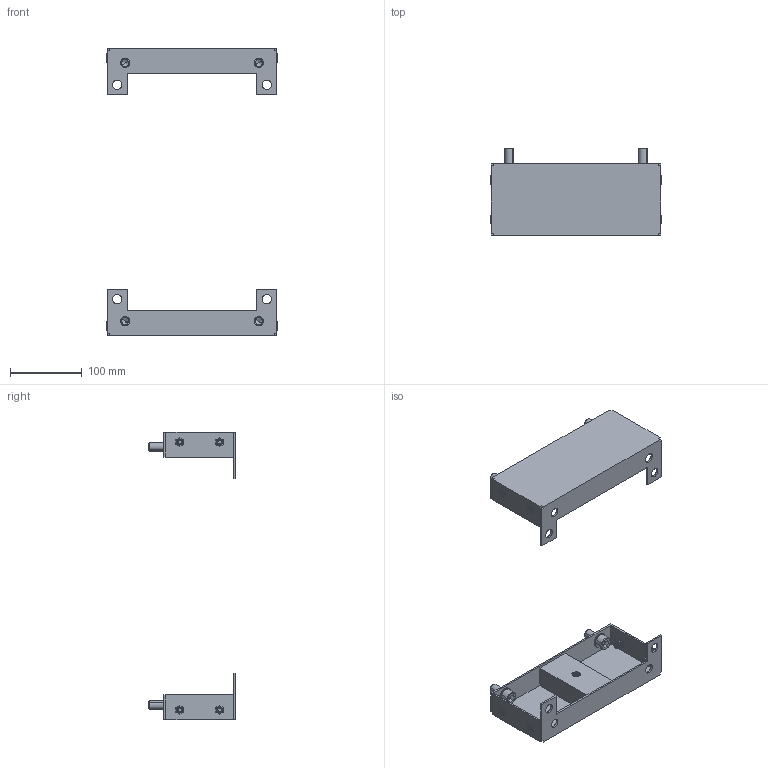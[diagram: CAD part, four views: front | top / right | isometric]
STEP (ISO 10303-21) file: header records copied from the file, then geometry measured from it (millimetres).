
FILE_DESCRIPTION (( 'STEP AP203' ), '1' );
FILE_NAME ('R6PLB30 H=400.STEP', '2025-05-16T11:36:02', ( '' ), ( '' ), 'SwSTEP 2.0', 'SolidWorks 2022', '' );
FILE_SCHEMA (( 'CONFIG_CONTROL_DESIGN' ));
Length unit declared in the file: millimetre
Products named in the file (8): RB.3309.00.02.0 simple; RB.3309.00.01.0 simple_-01; M6 MGS-MPO-0635_thread; RB.3309.00.00.0 СБ simple_-01; R6PLB30 H=400; 12 DIN 6798 A Zinc; M6 MGS-MPO-0635_straight; M12x25 DIN 912 HX cl.8,8 Zinc_stright
Assembly tree (17 placements, depth 3):
  R6PLB30 H=400
    RB.3309.00.00.0 СБ simple_-01  x2
      RB.3309.00.01.0 simple_-01
      M6 MGS-MPO-0635_thread
      RB.3309.00.02.0 simple
      M6 MGS-MPO-0635_straight
    12 DIN 6798 A Zinc  x4
    M12x25 DIN 912 HX cl.8,8 Zinc_stright  x4
Bounding box: 236.7 x 121.5 x 400 mm (x, y, z)
Volume: 302950.7 mm3; surface area: 250656.7 mm2
Topology: 22 solids, 22 shells, 1388 faces, 3688 edges, 2136 vertices
Faces by surface type: plane 548, cylinder 484, bspline 168, sphere 120, cone 36, torus 32
Entity records: 14938 total; most frequent: CARTESIAN_POINT 5753, ORIENTED_EDGE 1768, DIRECTION 1535, EDGE_CURVE 884, VERTEX_POINT 558, VECTOR 533, LINE 533, AXIS2_PLACEMENT_3D 501
